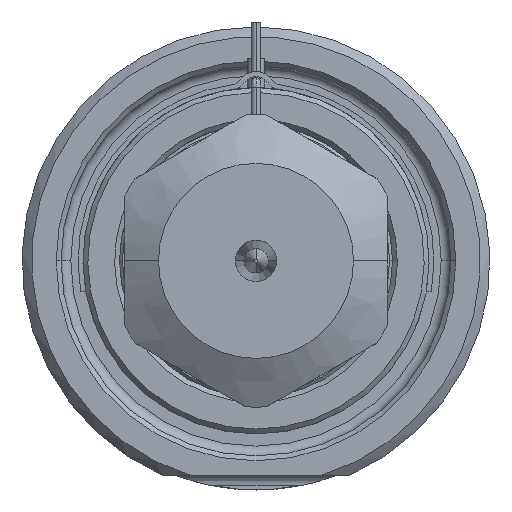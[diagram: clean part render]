
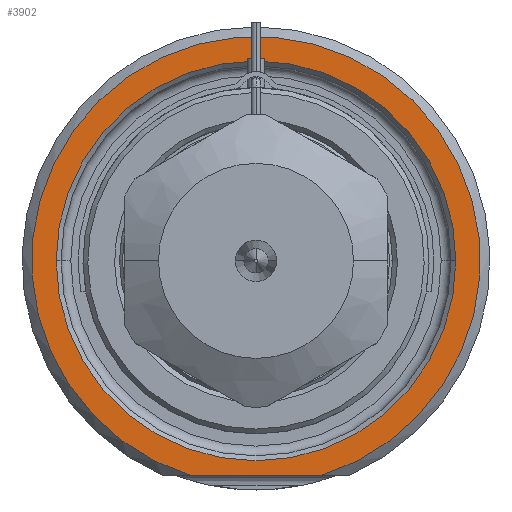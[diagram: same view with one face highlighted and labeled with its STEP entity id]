
A CAD part, front view. The second image highlights one B-rep face of the part: STEP entity #3902.
In plain terms, the highlighted planar face has unit normal (0, -1, 0).
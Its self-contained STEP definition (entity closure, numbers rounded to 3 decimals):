
#1=DIRECTION('',(1.,0.,0.));
#2=VECTOR('',#1,13.416);
#3=CARTESIAN_POINT('',(-6.708,0.,-22.));
#4=LINE('',#3,#2);
#5=CARTESIAN_POINT('',(0.,0.,0.));
#6=DIRECTION('',(0.,1.,0.));
#7=DIRECTION('',(-1.,0.,0.));
#8=AXIS2_PLACEMENT_3D('',#5,#6,#7);
#10=CARTESIAN_POINT('',(0.,0.,0.));
#11=DIRECTION('',(0.,1.,0.));
#12=DIRECTION('',(1.,0.,0.));
#13=AXIS2_PLACEMENT_3D('',#10,#11,#12);
#121=CARTESIAN_POINT('',(0.,0.,0.));
#122=DIRECTION('',(0.,-1.,0.));
#123=DIRECTION('',(0.292,0.,-0.957));
#124=AXIS2_PLACEMENT_3D('',#121,#122,#123);
#3272=CARTESIAN_POINT('',(-20.5,0.,0.));
#3273=CARTESIAN_POINT('',(20.5,0.,0.));
#3274=VERTEX_POINT('',#3272);
#3275=VERTEX_POINT('',#3273);
#3312=CARTESIAN_POINT('',(-6.708,0.,-22.));
#3313=CARTESIAN_POINT('',(6.708,0.,-22.));
#3314=VERTEX_POINT('',#3312);
#3315=VERTEX_POINT('',#3313);
#3885=CARTESIAN_POINT('',(0.,0.,0.));
#3886=DIRECTION('',(0.,-1.,0.));
#3887=DIRECTION('',(1.,0.,0.));
#3888=AXIS2_PLACEMENT_3D('',#3885,#3886,#3887);
#3889=PLANE('',#3888);
#3891=ORIENTED_EDGE('',*,*,#3890,.F.);
#3893=ORIENTED_EDGE('',*,*,#3892,.F.);
#3894=EDGE_LOOP('',(#3891,#3893));
#3895=FACE_OUTER_BOUND('',#3894,.F.);
#3897=ORIENTED_EDGE('',*,*,#3896,.F.);
#3899=ORIENTED_EDGE('',*,*,#3898,.F.);
#3900=EDGE_LOOP('',(#3897,#3899));
#3901=FACE_BOUND('',#3900,.F.);
#3902=ADVANCED_FACE('',(#3895,#3901),#3889,.T.);
#9=CIRCLE('',#8,20.5);
#14=CIRCLE('',#13,20.5);
#125=CIRCLE('',#124,23.);
#3890=EDGE_CURVE('',#3314,#3315,#4,.T.);
#3892=EDGE_CURVE('',#3315,#3314,#125,.T.);
#3896=EDGE_CURVE('',#3274,#3275,#9,.T.);
#3898=EDGE_CURVE('',#3275,#3274,#14,.T.);
